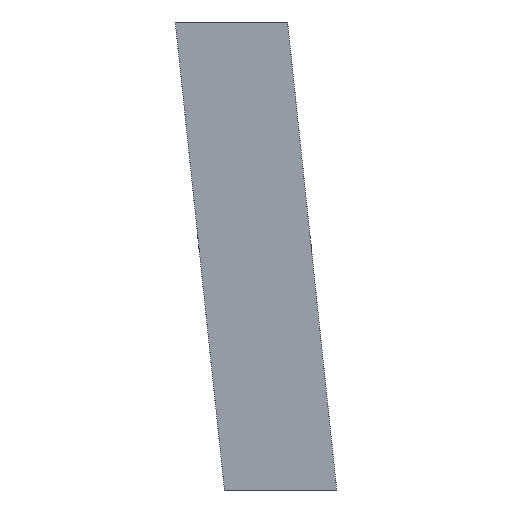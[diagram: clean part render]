
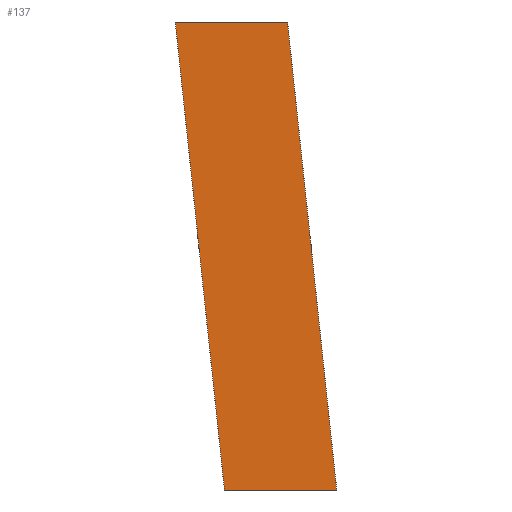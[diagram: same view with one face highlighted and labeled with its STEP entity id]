
A CAD part, left-side view. The second image highlights one B-rep face of the part: STEP entity #137.
In plain terms, the highlighted planar face has unit normal (-1, 0, 0).
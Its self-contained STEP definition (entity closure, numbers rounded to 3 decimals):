
#21 = EDGE_CURVE('',#22,#24,#26,.T.);
#22 = VERTEX_POINT('',#23);
#23 = CARTESIAN_POINT('',(-29.,-8.714,-20.833));
#24 = VERTEX_POINT('',#25);
#25 = CARTESIAN_POINT('',(-29.,-6.524,0.));
#26 = SURFACE_CURVE('',#27,(#31,#43),.PCURVE_S1.);
#27 = LINE('',#28,#29);
#28 = CARTESIAN_POINT('',(-29.,-9.38,-27.167));
#29 = VECTOR('',#30,1.);
#30 = DIRECTION('',(-0.,0.105,0.995));
#31 = PCURVE('',#32,#37);
#32 = PLANE('',#33);
#33 = AXIS2_PLACEMENT_3D('',#34,#35,#36);
#34 = CARTESIAN_POINT('',(-29.,-9.38,-27.167));
#35 = DIRECTION('',(0.,0.995,-0.105));
#36 = DIRECTION('',(0.,-0.105,-0.995));
#37 = DEFINITIONAL_REPRESENTATION('',(#38),#42);
#38 = LINE('',#39,#40);
#39 = CARTESIAN_POINT('',(-0.,0.));
#40 = VECTOR('',#41,1.);
#41 = DIRECTION('',(-1.,0.));
#42 = ( GEOMETRIC_REPRESENTATION_CONTEXT(2) 
PARAMETRIC_REPRESENTATION_CONTEXT() REPRESENTATION_CONTEXT('2D SPACE',''
  ) );
#43 = PCURVE('',#44,#49);
#44 = PLANE('',#45);
#45 = AXIS2_PLACEMENT_3D('',#46,#47,#48);
#46 = CARTESIAN_POINT('',(-29.,-3.043,9.333));
#47 = DIRECTION('',(1.,-0.,-0.));
#48 = DIRECTION('',(0.,0.,-1.));
#49 = DEFINITIONAL_REPRESENTATION('',(#50),#54);
#50 = LINE('',#51,#52);
#51 = CARTESIAN_POINT('',(36.5,-6.336));
#52 = VECTOR('',#53,1.);
#53 = DIRECTION('',(-0.995,0.105));
#54 = ( GEOMETRIC_REPRESENTATION_CONTEXT(2) 
PARAMETRIC_REPRESENTATION_CONTEXT() REPRESENTATION_CONTEXT('2D SPACE',''
  ) );
#72 = PLANE('',#73);
#73 = AXIS2_PLACEMENT_3D('',#74,#75,#76);
#74 = CARTESIAN_POINT('',(-400.,388.,-20.833));
#75 = DIRECTION('',(0.,0.,1.));
#76 = DIRECTION('',(-1.,-0.,0.));
#126 = PLANE('',#127);
#127 = AXIS2_PLACEMENT_3D('',#128,#129,#130);
#128 = CARTESIAN_POINT('',(-400.,388.,0.));
#129 = DIRECTION('',(0.,0.,1.));
#130 = DIRECTION('',(-1.,-0.,0.));
#137 = ADVANCED_FACE('',(#138),#44,.F.);
#138 = FACE_BOUND('',#139,.T.);
#139 = EDGE_LOOP('',(#140,#163,#164,#187));
#140 = ORIENTED_EDGE('',*,*,#141,.F.);
#141 = EDGE_CURVE('',#22,#142,#144,.T.);
#142 = VERTEX_POINT('',#143);
#143 = CARTESIAN_POINT('',(-29.,-3.714,-20.833));
#144 = SURFACE_CURVE('',#145,(#149,#156),.PCURVE_S1.);
#145 = LINE('',#146,#147);
#146 = CARTESIAN_POINT('',(-29.,192.478,-20.833));
#147 = VECTOR('',#148,1.);
#148 = DIRECTION('',(-0.,1.,-0.));
#149 = PCURVE('',#44,#150);
#150 = DEFINITIONAL_REPRESENTATION('',(#151),#155);
#151 = LINE('',#152,#153);
#152 = CARTESIAN_POINT('',(30.167,195.522));
#153 = VECTOR('',#154,1.);
#154 = DIRECTION('',(-0.,1.));
#155 = ( GEOMETRIC_REPRESENTATION_CONTEXT(2) 
PARAMETRIC_REPRESENTATION_CONTEXT() REPRESENTATION_CONTEXT('2D SPACE',''
  ) );
#156 = PCURVE('',#72,#157);
#157 = DEFINITIONAL_REPRESENTATION('',(#158),#162);
#158 = LINE('',#159,#160);
#159 = CARTESIAN_POINT('',(-371.,195.522));
#160 = VECTOR('',#161,1.);
#161 = DIRECTION('',(-0.,-1.));
#162 = ( GEOMETRIC_REPRESENTATION_CONTEXT(2) 
PARAMETRIC_REPRESENTATION_CONTEXT() REPRESENTATION_CONTEXT('2D SPACE',''
  ) );
#163 = ORIENTED_EDGE('',*,*,#21,.T.);
#164 = ORIENTED_EDGE('',*,*,#165,.T.);
#165 = EDGE_CURVE('',#24,#166,#168,.T.);
#166 = VERTEX_POINT('',#167);
#167 = CARTESIAN_POINT('',(-29.,-1.524,0.));
#168 = SURFACE_CURVE('',#169,(#173,#180),.PCURVE_S1.);
#169 = LINE('',#170,#171);
#170 = CARTESIAN_POINT('',(-29.,192.478,0.));
#171 = VECTOR('',#172,1.);
#172 = DIRECTION('',(-0.,1.,-0.));
#173 = PCURVE('',#44,#174);
#174 = DEFINITIONAL_REPRESENTATION('',(#175),#179);
#175 = LINE('',#176,#177);
#176 = CARTESIAN_POINT('',(9.333,195.522));
#177 = VECTOR('',#178,1.);
#178 = DIRECTION('',(-0.,1.));
#179 = ( GEOMETRIC_REPRESENTATION_CONTEXT(2) 
PARAMETRIC_REPRESENTATION_CONTEXT() REPRESENTATION_CONTEXT('2D SPACE',''
  ) );
#180 = PCURVE('',#126,#181);
#181 = DEFINITIONAL_REPRESENTATION('',(#182),#186);
#182 = LINE('',#183,#184);
#183 = CARTESIAN_POINT('',(-371.,195.522));
#184 = VECTOR('',#185,1.);
#185 = DIRECTION('',(-0.,-1.));
#186 = ( GEOMETRIC_REPRESENTATION_CONTEXT(2) 
PARAMETRIC_REPRESENTATION_CONTEXT() REPRESENTATION_CONTEXT('2D SPACE',''
  ) );
#187 = ORIENTED_EDGE('',*,*,#188,.T.);
#188 = EDGE_CURVE('',#166,#142,#189,.T.);
#189 = SURFACE_CURVE('',#190,(#194,#201),.PCURVE_S1.);
#190 = LINE('',#191,#192);
#191 = CARTESIAN_POINT('',(-29.,3.293,45.833));
#192 = VECTOR('',#193,1.);
#193 = DIRECTION('',(-0.,-0.105,-0.995));
#194 = PCURVE('',#44,#195);
#195 = DEFINITIONAL_REPRESENTATION('',(#196),#200);
#196 = LINE('',#197,#198);
#197 = CARTESIAN_POINT('',(-36.5,6.336));
#198 = VECTOR('',#199,1.);
#199 = DIRECTION('',(0.995,-0.105));
#200 = ( GEOMETRIC_REPRESENTATION_CONTEXT(2) 
PARAMETRIC_REPRESENTATION_CONTEXT() REPRESENTATION_CONTEXT('2D SPACE',''
  ) );
#201 = PCURVE('',#202,#207);
#202 = PLANE('',#203);
#203 = AXIS2_PLACEMENT_3D('',#204,#205,#206);
#204 = CARTESIAN_POINT('',(-29.,3.293,45.833));
#205 = DIRECTION('',(-0.,-0.995,0.105));
#206 = DIRECTION('',(0.,0.105,0.995));
#207 = DEFINITIONAL_REPRESENTATION('',(#208),#212);
#208 = LINE('',#209,#210);
#209 = CARTESIAN_POINT('',(-0.,-0.));
#210 = VECTOR('',#211,1.);
#211 = DIRECTION('',(-1.,0.));
#212 = ( GEOMETRIC_REPRESENTATION_CONTEXT(2) 
PARAMETRIC_REPRESENTATION_CONTEXT() REPRESENTATION_CONTEXT('2D SPACE',''
  ) );
